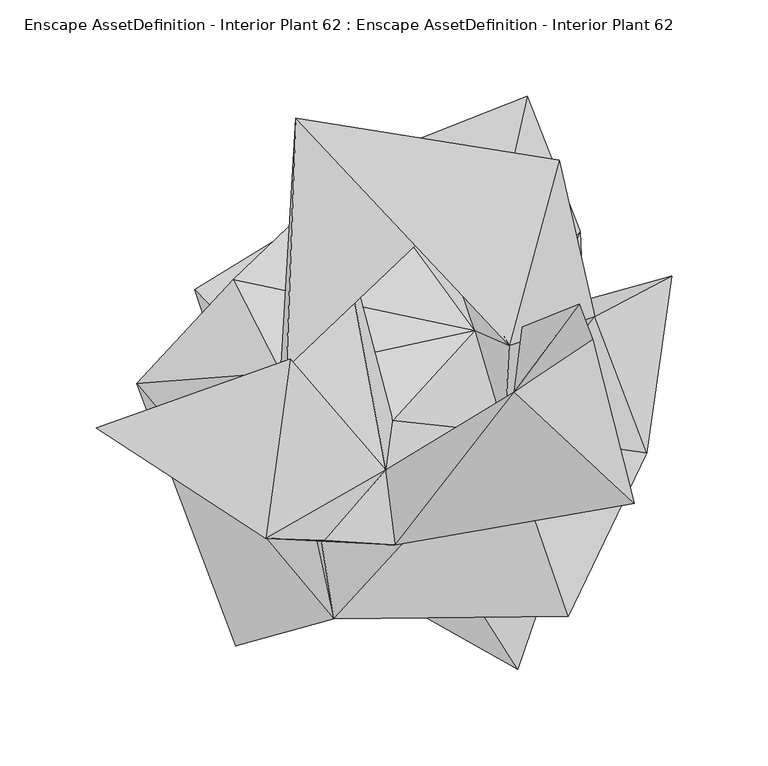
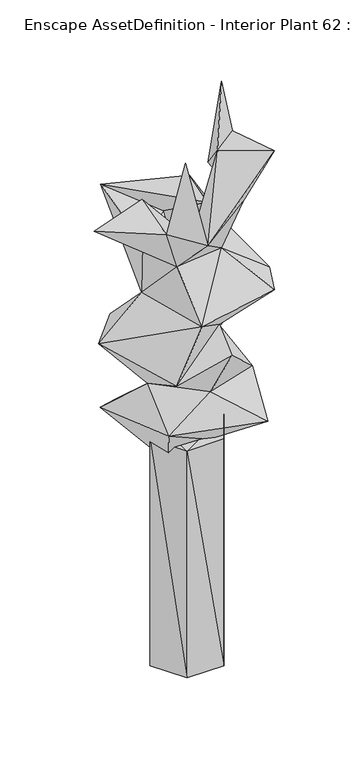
"""IFC4 building model written with IfcOpenShell, lengths in millimetres: geographic element geometry, Enscape AssetDefinition - Interior Plant 62 : Enscape AssetDefinition - Interior Plant 62."""

from ifc_helpers import new_model, si_unit, origin, place, context, project, spatial, faceted_brep, source, transform, mapped, element, save


def enscape_assetdefinition_interior_plant_62_enscape_7ba2f476(model_context):
    return source(origin(), model_context, "Body", "Brep", [
        faceted_brep([(48.8820001, 19.1670004, 380.171001), (-2.8619999, 49.6920012, 367.0189977), (44.9579991, 107.8810021, 421.2320149), (-35.5900005, -6.1710002, 355.4199934), (-67.6940009, 89.3199965, 419.8119938), (-35.0730009, 19.1249996, -3.727), (47.8850007, 31.3210003, 11.3629997), (46.461001, 66.9799969, 472.8200138), (-59.6330017, 12.205, 491.1339879), (18.0259999, -31.3020013, 390.8970058), (9.2949998, -30.9640002, 23.4229993), (58.2600012, -133.337006, 471.2040126), (95.6590027, -24.0080003, 489.9269938), (-66.7459965, -62.6590028, 445.2039897), (7.6529998, -53.7710004, 492.4120009), (90.7709971, 94.0729976, 507.6220036), (59.0999983, 7.0090001, 554.0609956), (30.6090005, -76.5089989, 562.4089837), (-109.2289984, 63.8940036, 434.8610044), (-26.6280007, 128.7800074, 532.7939987), (-139.3730044, 14.9760004, 586.9179964), (-87.9430026, -121.2079972, 576.1899948), (36.0930003, 42.6260009, 570.4140067), (63.2440001, 164.1519964, 533.2069993), (-89.3739983, 68.9430013, 590.2050138), (138.2279992, 70.882, 611.1599803), (125.1849979, -20.9309999, 652.3780227), (19.1920009, -60.2409989, 611.7820144), (98.3040035, 49.9450006, 690.6690001), (51.6650006, -10.2460003, 705.1690221), (84.7000033, -105.8069989, 677.1289706), (-37.0449983, -107.0590019, 655.5879712), (-46.1760014, -49.8199984, 730.2809954), (-64.7279993, 20.6840001, 648.4889984), (53.8740009, 34.8000005, 757.9159737), (17.2090009, 98.1030017, 716.8419957), (-6.6180001, -4.1740001, 650.6980062), (79.8360035, 131.0359985, 737.8389835), (-56.7499995, 152.7210027, 756.6149831), (-34.754999, 103.1830013, 706.0400248), (-61.6020001, 23.3789999, 733.1269979), (-10.0969998, -29.809, 753.271997), (67.7879974, -43.3479995, 800.5629778), (-5.132, -68.8090026, 763.8239861), (56.6660017, 10.6199998, 862.7679944), (118.761003, -47.2000018, 875.4130006), (60.6690012, 44.2599989, 820.1850057), (97.4150002, 37.9140005, 866.8670058), (90.1720002, 56.3049987, 945.3080297), (-41.7070016, -66.5609986, 921.0240245), (-72.3600015, -65.2600005, 804.8809767), (-160.2880061, -8.1439996, 806.9149852), (-59.7449988, 27.7919993, 806.5599799)], [[[0, 1, 2]], [[1, 3, 4]], [[5, 1, 6]], [[3, 1, 5]], [[4, 2, 1]], [[1, 0, 6]], [[7, 2, 8]], [[7, 0, 2]], [[8, 2, 4]], [[0, 9, 6]], [[7, 9, 0]], [[6, 10, 5]], [[9, 10, 6]], [[10, 3, 5]], [[10, 9, 3]], [[11, 9, 12]], [[7, 12, 9]], [[9, 13, 3]], [[11, 13, 9]], [[11, 12, 14]], [[13, 11, 14]], [[12, 7, 15]], [[12, 15, 16]], [[17, 12, 16]], [[12, 17, 14]], [[14, 8, 13]], [[14, 17, 8]], [[8, 18, 13]], [[3, 13, 18]], [[3, 18, 4]], [[8, 4, 18]], [[7, 8, 19]], [[20, 19, 8]], [[21, 20, 8]], [[17, 21, 8]], [[22, 23, 19]], [[22, 19, 24]], [[24, 19, 20]], [[7, 19, 23]], [[7, 23, 15]], [[15, 23, 22]], [[16, 15, 22]], [[25, 16, 22]], [[26, 27, 16]], [[27, 17, 16]], [[25, 26, 16]], [[25, 22, 28]], [[26, 25, 28]], [[26, 28, 29]], [[30, 27, 26]], [[29, 30, 26]], [[27, 21, 17]], [[30, 31, 27]], [[27, 31, 21]], [[30, 29, 31]], [[21, 31, 20]], [[29, 32, 31]], [[31, 32, 33]], [[33, 20, 31]], [[33, 24, 20]], [[33, 22, 24]], [[22, 34, 35]], [[36, 22, 33]], [[29, 22, 36]], [[29, 34, 22]], [[28, 22, 35]], [[37, 38, 34]], [[34, 28, 37]], [[34, 38, 35]], [[28, 34, 29]], [[37, 28, 35]], [[35, 39, 37]], [[40, 39, 35]], [[35, 38, 40]], [[38, 37, 39]], [[33, 38, 39]], [[40, 38, 33]], [[36, 33, 39]], [[36, 39, 41]], [[41, 39, 40]], [[41, 29, 36]], [[42, 43, 29]], [[29, 43, 32]], [[42, 29, 41]], [[44, 42, 41]], [[45, 43, 42]], [[45, 42, 46]], [[42, 44, 46]], [[45, 46, 47]], [[44, 45, 47]], [[43, 45, 44]], [[44, 48, 46]], [[44, 41, 43]], [[44, 47, 48]], [[48, 47, 46]], [[43, 41, 49]], [[32, 43, 50]], [[49, 50, 43]], [[49, 41, 50]], [[50, 51, 32]], [[52, 51, 50]], [[41, 52, 50]], [[40, 51, 52]], [[32, 51, 40]], [[41, 40, 52]], [[32, 40, 33]]]),
        faceted_brep([(61.8439987, 0.0, 0.0), (30.9219994, 53.5579994, 0.0), (61.8439987, 0.0, 400.7880092), (-30.9219994, 53.5579994, 0.0), (30.9219994, 53.5579994, 400.7880092), (-61.8439987, 0.0, 0.0), (-30.9219994, 53.5579994, 400.7880092), (-30.9219994, -53.5579994, 0.0), (-61.8439987, 0.0, 400.7880092), (30.9219994, -53.5579994, 0.0), (-30.9219994, -53.5579994, 400.7880092), (30.9219994, -53.5579994, 400.7880092)], [[[0, 1, 2]], [[1, 3, 4]], [[3, 5, 6]], [[5, 7, 8]], [[7, 9, 10]], [[9, 0, 11]], [[1, 5, 3]], [[2, 6, 10]], [[2, 1, 4]], [[4, 3, 6]], [[6, 5, 8]], [[8, 7, 10]], [[10, 9, 11]], [[11, 0, 2]], [[5, 1, 0]], [[5, 0, 9]], [[5, 9, 7]], [[6, 2, 4]], [[10, 6, 8]], [[2, 10, 11]]]),
    ])


if __name__ == "__main__":
    model = new_model("IFC4")
    model_context = context("Model", 3, world=origin())
    ifc_project = project(units=[si_unit("LENGTHUNIT", "METRE", prefix="MILLI")], contexts=[model_context])
    site = spatial("IfcSite", under=ifc_project)
    building = spatial("IfcBuilding", under=site)
    placement = place(None, origin())
    enscape_assetdefinition_interior_plant_62_enscape_shape = enscape_assetdefinition_interior_plant_62_enscape_7ba2f476(model_context)
    element("IfcGeographicElement", 1, ObjectType="Enscape AssetDefinition - Interior Plant 62 : Enscape AssetDefinition - Interior Plant 62", at=placement, inside=building, context=model_context, shape_type="MappedRepresentation", body=[
        mapped(enscape_assetdefinition_interior_plant_62_enscape_shape, transform((0.0, 0.0, 0.0), x_axis=(1.0, 0.0, 0.0), y_axis=(0.0, 1.0, 0.0), z_axis=(0.0, 0.0, 1.0))),
    ])
    save(model, "model.ifc")
